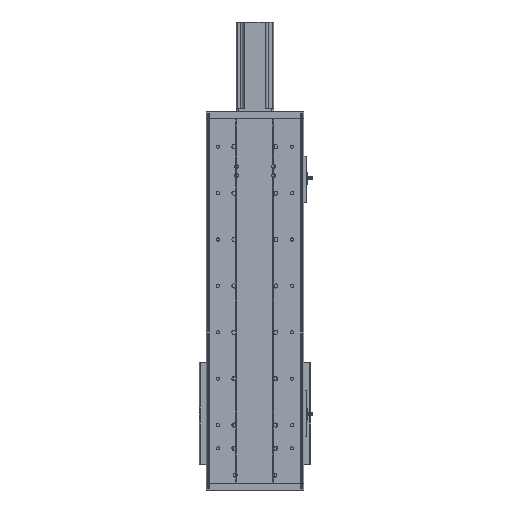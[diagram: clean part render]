
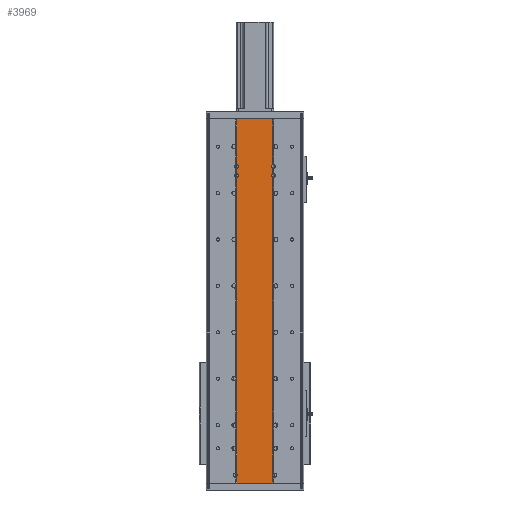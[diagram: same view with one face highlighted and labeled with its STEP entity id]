
A CAD part, front view. The second image highlights one B-rep face of the part: STEP entity #3969.
In plain terms, the highlighted planar face has unit normal (0, -1, 0).
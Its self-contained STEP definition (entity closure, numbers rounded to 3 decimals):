
#277 = VECTOR ( 'NONE', #46705, 1000. ) ;
#302 = DIRECTION ( 'NONE',  ( 0., 1., 0. ) ) ;
#1188 = EDGE_CURVE ( 'NONE', #33920, #51050, #12943, .T. ) ;
#1290 = DIRECTION ( 'NONE',  ( 0., 0., -1. ) ) ;
#2864 = ORIENTED_EDGE ( 'NONE', *, *, #36496, .T. ) ;
#2893 = VECTOR ( 'NONE', #13416, 1000. ) ;
#3056 = CARTESIAN_POINT ( 'NONE',  ( 124.257, 31.058, 0. ) ) ;
#3288 = EDGE_CURVE ( 'NONE', #9048, #34769, #33306, .T. ) ;
#3514 = DIRECTION ( 'NONE',  ( -1., 0., 0. ) ) ;
#3711 = EDGE_CURVE ( 'NONE', #51050, #29643, #20609, .T. ) ;
#3878 = VERTEX_POINT ( 'NONE', #38464 ) ;
#3969 = ADVANCED_FACE ( 'NONE', ( #13432 ), #46973, .F. ) ;
#5119 = EDGE_CURVE ( 'NONE', #8437, #14596, #50851, .T. ) ;
#5677 = CIRCLE ( 'NONE', #33804, 4.25 ) ;
#6382 = ORIENTED_EDGE ( 'NONE', *, *, #28350, .T. ) ;
#6999 = EDGE_CURVE ( 'NONE', #34470, #34769, #42901, .T. ) ;
#7766 = ORIENTED_EDGE ( 'NONE', *, *, #3288, .T. ) ;
#8250 = CARTESIAN_POINT ( 'NONE',  ( 124.257, 31.058, 785. ) ) ;
#8437 = VERTEX_POINT ( 'NONE', #32949 ) ;
#8618 = EDGE_CURVE ( 'NONE', #47165, #28752, #29629, .T. ) ;
#8715 = AXIS2_PLACEMENT_3D ( 'NONE', #16585, #302, #41576 ) ;
#9048 = VERTEX_POINT ( 'NONE', #52034 ) ;
#9287 = CARTESIAN_POINT ( 'NONE',  ( 124.257, 31.058, 785. ) ) ;
#10023 = VECTOR ( 'NONE', #1290, 1000. ) ;
#10508 = VERTEX_POINT ( 'NONE', #19863 ) ;
#11412 = LINE ( 'NONE', #32570, #23802 ) ;
#12145 = AXIS2_PLACEMENT_3D ( 'NONE', #43794, #23150, #34723 ) ;
#12419 = DIRECTION ( 'NONE',  ( -1., 0., 0. ) ) ;
#12550 = VECTOR ( 'NONE', #19340, 1000. ) ;
#12835 = ORIENTED_EDGE ( 'NONE', *, *, #5119, .F. ) ;
#12871 = ORIENTED_EDGE ( 'NONE', *, *, #13394, .F. ) ;
#12943 = LINE ( 'NONE', #8250, #30757 ) ;
#13394 = EDGE_CURVE ( 'NONE', #16395, #49636, #33233, .T. ) ;
#13416 = DIRECTION ( 'NONE',  ( 0., 0., -1. ) ) ;
#13432 = FACE_OUTER_BOUND ( 'NONE', #36738, .T. ) ;
#13540 = CARTESIAN_POINT ( 'NONE',  ( 120.757, 31.058, 17. ) ) ;
#14596 = VERTEX_POINT ( 'NONE', #28159 ) ;
#14718 = CARTESIAN_POINT ( 'NONE',  ( 202.257, 31.058, 0. ) ) ;
#15296 = VECTOR ( 'NONE', #50878, 1000. ) ;
#15649 = EDGE_CURVE ( 'NONE', #8437, #29643, #5677, .T. ) ;
#15920 = CARTESIAN_POINT ( 'NONE',  ( 124.257, 31.058, 667.131 ) ) ;
#15994 = CARTESIAN_POINT ( 'NONE',  ( 124.257, 31.058, 785. ) ) ;
#16071 = EDGE_CURVE ( 'NONE', #34470, #49636, #22471, .T. ) ;
#16115 = ORIENTED_EDGE ( 'NONE', *, *, #31254, .T. ) ;
#16395 = VERTEX_POINT ( 'NONE', #20969 ) ;
#16490 = DIRECTION ( 'NONE',  ( 0., 1., 0. ) ) ;
#16552 = DIRECTION ( 'NONE',  ( 0., 0., -1. ) ) ;
#16585 = CARTESIAN_POINT ( 'NONE',  ( 123.257, 31.058, 663. ) ) ;
#16671 = AXIS2_PLACEMENT_3D ( 'NONE', #13540, #50934, #41878 ) ;
#17352 = CARTESIAN_POINT ( 'NONE',  ( 202.257, 31.058, 785. ) ) ;
#17365 = DIRECTION ( 'NONE',  ( 1., 0., 0. ) ) ;
#17767 = CIRCLE ( 'NONE', #34426, 4.25 ) ;
#18112 = CARTESIAN_POINT ( 'NONE',  ( 124.257, 31.058, 785. ) ) ;
#18939 = VERTEX_POINT ( 'NONE', #54317 ) ;
#19205 = ORIENTED_EDGE ( 'NONE', *, *, #31523, .T. ) ;
#19340 = DIRECTION ( 'NONE',  ( 0., 0., -1. ) ) ;
#19614 = CARTESIAN_POINT ( 'NONE',  ( 124.257, 31.058, 785. ) ) ;
#19863 = CARTESIAN_POINT ( 'NONE',  ( 124.257, 31.058, 687.131 ) ) ;
#20609 = LINE ( 'NONE', #45359, #33834 ) ;
#20893 = ORIENTED_EDGE ( 'NONE', *, *, #15649, .T. ) ;
#20969 = CARTESIAN_POINT ( 'NONE',  ( 202.257, 31.058, 658.869 ) ) ;
#21629 = DIRECTION ( 'NONE',  ( 0., 1., 0. ) ) ;
#22471 = CIRCLE ( 'NONE', #25098, 4.25 ) ;
#23150 = DIRECTION ( 'NONE',  ( 0., 1., 0. ) ) ;
#23802 = VECTOR ( 'NONE', #49093, 1000. ) ;
#24244 = VECTOR ( 'NONE', #40751, 1000. ) ;
#25098 = AXIS2_PLACEMENT_3D ( 'NONE', #40893, #21629, #46377 ) ;
#25964 = ORIENTED_EDGE ( 'NONE', *, *, #6999, .F. ) ;
#26077 = DIRECTION ( 'NONE',  ( 0., 1., 0. ) ) ;
#28159 = CARTESIAN_POINT ( 'NONE',  ( 202.257, 31.058, 667.131 ) ) ;
#28350 = EDGE_CURVE ( 'NONE', #49242, #18939, #49261, .T. ) ;
#28752 = VERTEX_POINT ( 'NONE', #15920 ) ;
#29629 = LINE ( 'NONE', #18112, #2893 ) ;
#29643 = VERTEX_POINT ( 'NONE', #54226 ) ;
#29646 = CARTESIAN_POINT ( 'NONE',  ( 124.257, 31.058, 658.869 ) ) ;
#29679 = CIRCLE ( 'NONE', #12145, 4.25 ) ;
#29957 = CARTESIAN_POINT ( 'NONE',  ( 124.257, 31.058, 785. ) ) ;
#30757 = VECTOR ( 'NONE', #17365, 1000. ) ;
#31254 = EDGE_CURVE ( 'NONE', #16395, #14596, #29679, .T. ) ;
#31523 = EDGE_CURVE ( 'NONE', #33920, #10508, #41547, .T. ) ;
#32570 = CARTESIAN_POINT ( 'NONE',  ( 124.257, 31.058, 785. ) ) ;
#32899 = CARTESIAN_POINT ( 'NONE',  ( 202.257, 31.058, 19.411 ) ) ;
#32908 = ORIENTED_EDGE ( 'NONE', *, *, #3711, .F. ) ;
#32949 = CARTESIAN_POINT ( 'NONE',  ( 202.257, 31.058, 678.869 ) ) ;
#32971 = DIRECTION ( 'NONE',  ( 0., 0., -1. ) ) ;
#33233 = LINE ( 'NONE', #46965, #10023 ) ;
#33306 = LINE ( 'NONE', #3056, #24244 ) ;
#33804 = AXIS2_PLACEMENT_3D ( 'NONE', #44823, #16490, #3514 ) ;
#33834 = VECTOR ( 'NONE', #32971, 1000. ) ;
#33920 = VERTEX_POINT ( 'NONE', #19614 ) ;
#34150 = CARTESIAN_POINT ( 'NONE',  ( 123.257, 31.058, 683. ) ) ;
#34426 = AXIS2_PLACEMENT_3D ( 'NONE', #34150, #50103, #12419 ) ;
#34470 = VERTEX_POINT ( 'NONE', #42588 ) ;
#34723 = DIRECTION ( 'NONE',  ( -1., 0., 0. ) ) ;
#34769 = VERTEX_POINT ( 'NONE', #14718 ) ;
#36199 = ORIENTED_EDGE ( 'NONE', *, *, #40304, .T. ) ;
#36496 = EDGE_CURVE ( 'NONE', #28752, #49242, #38612, .T. ) ;
#36729 = VECTOR ( 'NONE', #16552, 1000. ) ;
#36738 = EDGE_LOOP ( 'NONE', ( #6382, #51911, #41996, #7766, #25964, #48426, #12871, #16115, #12835, #20893, #32908, #51342, #19205, #36199, #54298, #2864 ) ) ;
#38464 = CARTESIAN_POINT ( 'NONE',  ( 124.257, 31.058, 14.589 ) ) ;
#38612 = CIRCLE ( 'NONE', #8715, 4.25 ) ;
#38727 = CARTESIAN_POINT ( 'NONE',  ( 202.257, 31.058, 785. ) ) ;
#39673 = EDGE_CURVE ( 'NONE', #3878, #9048, #11412, .T. ) ;
#40304 = EDGE_CURVE ( 'NONE', #10508, #47165, #17767, .T. ) ;
#40751 = DIRECTION ( 'NONE',  ( 1., 0., 0. ) ) ;
#40893 = CARTESIAN_POINT ( 'NONE',  ( 205.757, 31.058, 17. ) ) ;
#41547 = LINE ( 'NONE', #29957, #36729 ) ;
#41576 = DIRECTION ( 'NONE',  ( -1., 0., 0. ) ) ;
#41878 = DIRECTION ( 'NONE',  ( -1., 0., 0. ) ) ;
#41996 = ORIENTED_EDGE ( 'NONE', *, *, #39673, .T. ) ;
#42588 = CARTESIAN_POINT ( 'NONE',  ( 202.257, 31.058, 14.589 ) ) ;
#42858 = DIRECTION ( 'NONE',  ( -1., 0., 0. ) ) ;
#42901 = LINE ( 'NONE', #17352, #15296 ) ;
#43794 = CARTESIAN_POINT ( 'NONE',  ( 203.257, 31.058, 663. ) ) ;
#44823 = CARTESIAN_POINT ( 'NONE',  ( 203.257, 31.058, 683. ) ) ;
#45359 = CARTESIAN_POINT ( 'NONE',  ( 202.257, 31.058, 785. ) ) ;
#46377 = DIRECTION ( 'NONE',  ( -1., 0., 0. ) ) ;
#46705 = DIRECTION ( 'NONE',  ( 0., 0., -1. ) ) ;
#46965 = CARTESIAN_POINT ( 'NONE',  ( 202.257, 31.058, 785. ) ) ;
#46973 = PLANE ( 'NONE',  #48763 ) ;
#47165 = VERTEX_POINT ( 'NONE', #47372 ) ;
#47372 = CARTESIAN_POINT ( 'NONE',  ( 124.257, 31.058, 678.869 ) ) ;
#48285 = CIRCLE ( 'NONE', #16671, 4.25 ) ;
#48426 = ORIENTED_EDGE ( 'NONE', *, *, #16071, .T. ) ;
#48763 = AXIS2_PLACEMENT_3D ( 'NONE', #9287, #26077, #42858 ) ;
#49093 = DIRECTION ( 'NONE',  ( 0., 0., -1. ) ) ;
#49242 = VERTEX_POINT ( 'NONE', #29646 ) ;
#49261 = LINE ( 'NONE', #15994, #12550 ) ;
#49636 = VERTEX_POINT ( 'NONE', #32899 ) ;
#49850 = CARTESIAN_POINT ( 'NONE',  ( 202.257, 31.058, 785. ) ) ;
#50103 = DIRECTION ( 'NONE',  ( 0., 1., 0. ) ) ;
#50851 = LINE ( 'NONE', #38727, #277 ) ;
#50878 = DIRECTION ( 'NONE',  ( 0., 0., -1. ) ) ;
#50934 = DIRECTION ( 'NONE',  ( 0., 1., 0. ) ) ;
#51050 = VERTEX_POINT ( 'NONE', #49850 ) ;
#51186 = EDGE_CURVE ( 'NONE', #18939, #3878, #48285, .T. ) ;
#51342 = ORIENTED_EDGE ( 'NONE', *, *, #1188, .F. ) ;
#51911 = ORIENTED_EDGE ( 'NONE', *, *, #51186, .T. ) ;
#52034 = CARTESIAN_POINT ( 'NONE',  ( 124.257, 31.058, 0. ) ) ;
#54226 = CARTESIAN_POINT ( 'NONE',  ( 202.257, 31.058, 687.131 ) ) ;
#54298 = ORIENTED_EDGE ( 'NONE', *, *, #8618, .T. ) ;
#54317 = CARTESIAN_POINT ( 'NONE',  ( 124.257, 31.058, 19.411 ) ) ;
